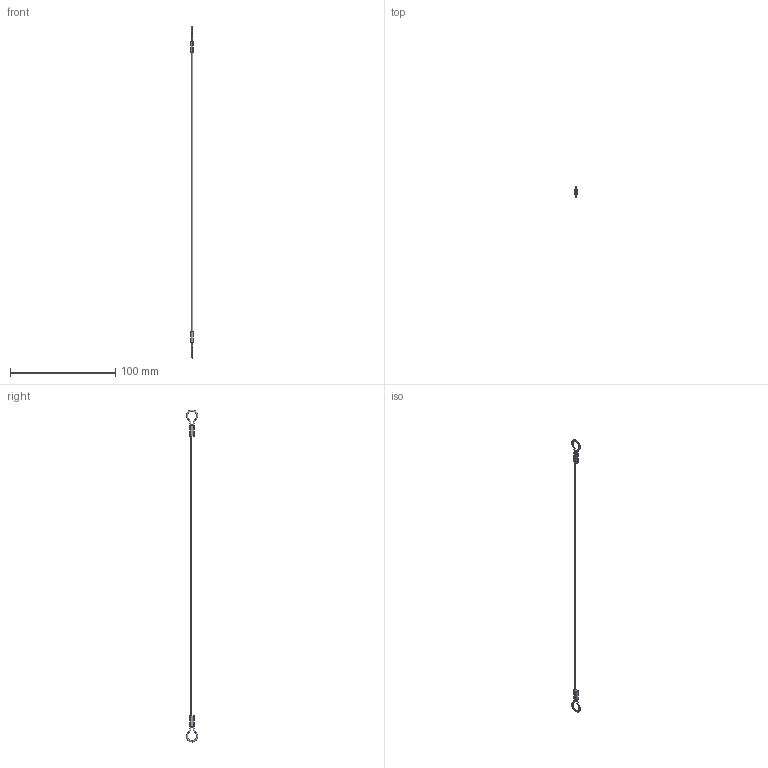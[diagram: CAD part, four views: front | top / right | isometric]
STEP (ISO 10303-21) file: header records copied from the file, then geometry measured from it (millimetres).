
FILE_DESCRIPTION (( 'STEP AP203' ), '1' );
FILE_NAME ('LA1065.I04-304N1.step', '2026-03-23T15:42:52', ( '' ), ( '' ), 'SwSTEP 2.0', 'SolidWorks 2019', '' );
FILE_SCHEMA (( 'CONFIG_CONTROL_DESIGN' ));
Length unit declared in the file: millimetre
Products named in the file (1): LA1065.I04-304N1
Bounding box: 2.4 x 10.78 x 315.57 mm (x, y, z)
Volume: 575 mm3; surface area: 1537.5 mm2
Topology: 1 solids, 1 shells, 30 faces, 68 edges, 42 vertices
Faces by surface type: torus 14, cylinder 8, plane 8
Entity records: 945 total; most frequent: DIRECTION 178, CARTESIAN_POINT 141, ORIENTED_EDGE 136, AXIS2_PLACEMENT_3D 79, EDGE_CURVE 68, CIRCLE 48, VERTEX_POINT 42, EDGE_LOOP 36
